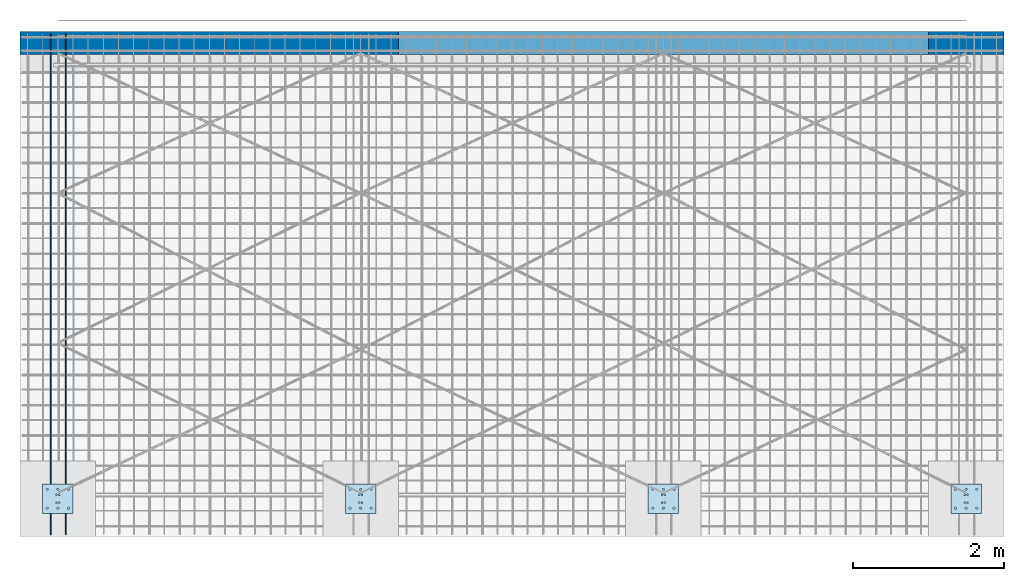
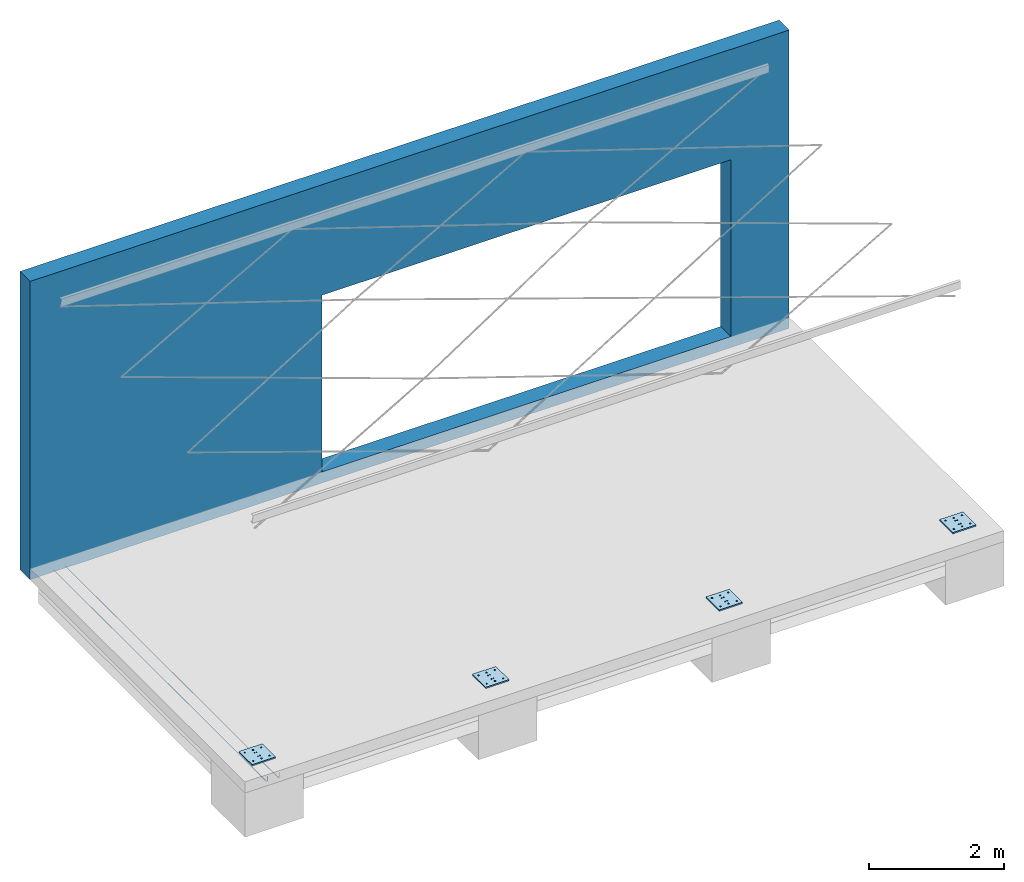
# One storey, part 2 of 8: 4 plates, 1 reinforcing bar, 1 wall, 41 openings.
"""IFC4X3_ADD2 building model written with IfcOpenShell, lengths in millimetres."""

from ifc_helpers import new_model, entity, si_unit, converted_unit, derived_unit, direction, frame, frame_2d, origin, origin_with_axes, origin_2d_with_axis, place, context, subcontext, project, spatial, polyline, rectangle, circle, outline, extrude, material, layer, layer_set, type_object, element, save


model = new_model("IFC4X3_ADD2")

# Units and contexts
model_context = context("Model", 3, precision=0.01, world=origin(), true_north=direction((6.123233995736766e-17, 1.0)))
plan_context = context("Plan", 3, precision=0.01, world=origin(), true_north=direction((6.123233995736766e-17, 1.0)))
body_context = subcontext(model_context, "Body", "Model", "MODEL_VIEW")
ifc_project = project(units=[si_unit("LENGTHUNIT", "METRE", prefix="MILLI"), converted_unit("PLANEANGLEUNIT", "DEGREE", entity("IfcPlaneAngleMeasure", 0.017453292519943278), si_unit("PLANEANGLEUNIT", "RADIAN"), dimensions=[0, 0, 0, 0, 0, 0, 0]), si_unit("AREAUNIT", "SQUARE_METRE"), si_unit("VOLUMEUNIT", "CUBIC_METRE"), derived_unit("THERMALTRANSMITTANCEUNIT", [(si_unit("MASSUNIT", "GRAM", prefix="KILO"), 1), (si_unit("THERMODYNAMICTEMPERATUREUNIT", "KELVIN"), -1), (si_unit("TIMEUNIT", "SECOND"), -3)]), derived_unit("USERDEFINED", [(si_unit("MASSUNIT", "GRAM", prefix="KILO"), 1), (si_unit("THERMODYNAMICTEMPERATUREUNIT", "KELVIN"), -1), (si_unit("TIMEUNIT", "SECOND"), -2)]), derived_unit("THERMALRESISTANCEUNIT", [(si_unit("MASSUNIT", "GRAM", prefix="KILO"), -1), (si_unit("TIMEUNIT", "SECOND"), 3), (si_unit("THERMODYNAMICTEMPERATUREUNIT", "KELVIN"), 1)]), si_unit("MASSUNIT", "GRAM", prefix="KILO"), derived_unit("MOMENTOFINERTIAUNIT", [(si_unit("LENGTHUNIT", "METRE"), 4)]), derived_unit("LINEARFORCEUNIT", [(si_unit("MASSUNIT", "GRAM", prefix="KILO"), 1), (si_unit("TIMEUNIT", "SECOND"), -2)]), derived_unit("WARPINGCONSTANTUNIT", [(si_unit("LENGTHUNIT", "METRE"), 6)]), si_unit("PRESSUREUNIT", "PASCAL"), derived_unit("MASSDENSITYUNIT", [(si_unit("MASSUNIT", "GRAM", prefix="KILO"), 1), (si_unit("LENGTHUNIT", "METRE"), -3)]), derived_unit("MODULUSOFELASTICITYUNIT", [(si_unit("MASSUNIT", "GRAM", prefix="KILO"), 1), (si_unit("TIMEUNIT", "SECOND"), -2), (si_unit("LENGTHUNIT", "METRE"), -1)]), derived_unit("THERMALEXPANSIONCOEFFICIENTUNIT", [(si_unit("THERMODYNAMICTEMPERATUREUNIT", "KELVIN"), -1)]), derived_unit("VAPORPERMEABILITYUNIT", [(si_unit("LENGTHUNIT", "METRE"), -1), (si_unit("TIMEUNIT", "SECOND"), 1)]), derived_unit("USERDEFINED", [(si_unit("MASSUNIT", "GRAM", prefix="KILO"), 1), (si_unit("TIMEUNIT", "SECOND"), -3), (si_unit("LENGTHUNIT", "METRE"), 3), (si_unit("ELECTRICCURRENTUNIT", "AMPERE"), -2)]), derived_unit("SPECIFICHEATCAPACITYUNIT", [(si_unit("THERMODYNAMICTEMPERATUREUNIT", "KELVIN"), -1), (si_unit("TIMEUNIT", "SECOND"), -2), (si_unit("LENGTHUNIT", "METRE"), 2)]), derived_unit("THERMALCONDUCTANCEUNIT", [(si_unit("MASSUNIT", "GRAM", prefix="KILO"), 1), (si_unit("THERMODYNAMICTEMPERATUREUNIT", "KELVIN"), -1), (si_unit("TIMEUNIT", "SECOND"), -3), (si_unit("LENGTHUNIT", "METRE"), 1)])], contexts=[model_context, plan_context])

# Site, building, storey
site_placement = place(None, origin())
site = spatial("IfcSite", under=ifc_project, at=site_placement, Name="Default", CompositionType="ELEMENT")
building_placement = place(site_placement, origin())
building = spatial("IfcBuilding", under=site, at=building_placement, Name="Complex structure", CompositionType="ELEMENT")
storey_placement = place(building_placement, frame((0.0, 0.0, -400.0)))
storey = spatial("IfcBuildingStorey", under=building, at=storey_placement, Name="Level -02", CompositionType="ELEMENT", Elevation=-400.0)

# Plate, openings
ifc_material_1 = material(Name="Metal Stud Layer")
ifc_layer_1 = layer(ifc_material_1, 25.4)
ifc_layer_set_1 = layer_set([ifc_layer_1], Name="Metal Stud Layer")
plate_1_placement = place(storey_placement, frame((-1345.221550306, -1086.866703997, 225.4), z_axis=(0.0, 0.0, -1.0), x_axis=(1.0, 0.0, 0.0)))
plate_1 = element("IfcPlate", 1, at=plate_1_placement, inside=storey, material=ifc_layer_set_1, Name="Baseplate", ObjectType="Baseplate", context=model_context, shape_type="SweptSolid", body=[
    extrude(outline(polyline([(0.0, 0.0), (400.0, 0.0), (400.0, 392.0), (0.0, 392.0), (0.0, 0.0)])), origin_with_axes(), (0.0, 0.0, 1.0), 25.4),
])
opening_1_placement = place(plate_1_placement, frame((218.0, 248.0, 25.9), z_axis=(0.0, 0.0, -1.0), x_axis=(0.0, 1.0, 0.0)))
element("IfcOpeningElement", 2, at=opening_1_placement, cuts=plate_1, ObjectType="Opening", context=model_context, shape_type="SweptSolid", body=[
    extrude(circle(Radius=9.526, at=origin_2d_with_axis()), origin(), (0.0, 0.0, 1.0), 26.4),
])
opening_2_placement = place(plate_1_placement, frame((218.0, 144.0, 25.9), z_axis=(0.0, 0.0, -1.0), x_axis=(0.0, 1.0, 0.0)))
element("IfcOpeningElement", 3, at=opening_2_placement, cuts=plate_1, ObjectType="Opening", context=model_context, shape_type="SweptSolid", body=[
    extrude(circle(Radius=9.526, at=origin_2d_with_axis()), origin(), (0.0, 0.0, 1.0), 26.4),
])
opening_3_placement = place(plate_1_placement, frame((182.0, 144.0, 25.9), z_axis=(0.0, 0.0, -1.0), x_axis=(0.0, 1.0, 0.0)))
element("IfcOpeningElement", 4, at=opening_3_placement, cuts=plate_1, ObjectType="Opening", context=model_context, shape_type="SweptSolid", body=[
    extrude(circle(Radius=9.526, at=origin_2d_with_axis()), origin(), (0.0, 0.0, 1.0), 26.4),
])
opening_4_placement = place(plate_1_placement, frame((182.0, 248.0, 25.9), z_axis=(0.0, 0.0, -1.0), x_axis=(0.0, 1.0, 0.0)))
element("IfcOpeningElement", 5, at=opening_4_placement, cuts=plate_1, ObjectType="Opening", context=model_context, shape_type="SweptSolid", body=[
    extrude(circle(Radius=9.526, at=origin_2d_with_axis()), origin(), (0.0, 0.0, 1.0), 26.4),
])
opening_5_placement = place(plate_1_placement, frame((200.0, 196.0, 25.9), z_axis=(0.0, 0.0, -1.0), x_axis=(1.0, 0.0, 0.0)))
element("IfcOpeningElement", 6, at=opening_5_placement, cuts=plate_1, ObjectType="Opening", context=model_context, shape_type="SweptSolid", body=[
    extrude(circle(Radius=13.49475, at=frame_2d((0.0, 125.0), x_axis=(1.0, 0.0))), origin(), (0.0, 0.0, 1.0), 26.4),
])
opening_6_placement = place(plate_1_placement, frame((200.0, 196.0, 25.9), z_axis=(0.0, 0.0, -1.0), x_axis=(1.0, 0.0, 0.0)))
element("IfcOpeningElement", 7, at=opening_6_placement, cuts=plate_1, ObjectType="Opening", context=model_context, shape_type="SweptSolid", body=[
    extrude(circle(Radius=13.49475, at=frame_2d((140.0, 125.0), x_axis=(1.0, 0.0))), origin(), (0.0, 0.0, 1.0), 26.4),
])
opening_7_placement = place(plate_1_placement, frame((200.0, 196.0, 25.9), z_axis=(0.0, 0.0, -1.0), x_axis=(1.0, 0.0, 0.0)))
element("IfcOpeningElement", 8, at=opening_7_placement, cuts=plate_1, ObjectType="Opening", context=model_context, shape_type="SweptSolid", body=[
    extrude(circle(Radius=13.49475, at=frame_2d((-140.0, 125.0), x_axis=(1.0, 0.0))), origin(), (0.0, 0.0, 1.0), 26.4),
])
opening_8_placement = place(plate_1_placement, frame((200.0, 196.0, 25.9), z_axis=(0.0, 0.0, -1.0), x_axis=(1.0, 0.0, 0.0)))
element("IfcOpeningElement", 9, at=opening_8_placement, cuts=plate_1, ObjectType="Opening", context=model_context, shape_type="SweptSolid", body=[
    extrude(circle(Radius=13.49475, at=frame_2d((0.0, -125.0), x_axis=(1.0, 0.0))), origin(), (0.0, 0.0, 1.0), 26.4),
])
opening_9_placement = place(plate_1_placement, frame((200.0, 196.0, 25.9), z_axis=(0.0, 0.0, -1.0), x_axis=(1.0, 0.0, 0.0)))
element("IfcOpeningElement", 10, at=opening_9_placement, cuts=plate_1, ObjectType="Opening", context=model_context, shape_type="SweptSolid", body=[
    extrude(circle(Radius=13.49475, at=frame_2d((140.0, -125.0), x_axis=(1.0, 0.0))), origin(), (0.0, 0.0, 1.0), 26.4),
])
opening_10_placement = place(plate_1_placement, frame((200.0, 196.0, 25.9), z_axis=(0.0, 0.0, -1.0), x_axis=(1.0, 0.0, 0.0)))
element("IfcOpeningElement", 11, at=opening_10_placement, cuts=plate_1, ObjectType="Opening", context=model_context, shape_type="SweptSolid", body=[
    extrude(circle(Radius=13.49475, at=frame_2d((-140.0, -125.0), x_axis=(1.0, 0.0))), origin(), (0.0, 0.0, 1.0), 26.4),
])

plate_2_placement = place(storey_placement, frame((-5345.221550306, -1086.866703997, 225.4), z_axis=(0.0, 0.0, -1.0), x_axis=(1.0, 0.0, 0.0)))
plate_2 = element("IfcPlate", 12, at=plate_2_placement, inside=storey, material=ifc_layer_set_1, Name="Baseplate", ObjectType="Baseplate", context=model_context, shape_type="SweptSolid", body=[
    extrude(outline(polyline([(0.0, 0.0), (400.0, 0.0), (400.0, 392.0), (0.0, 392.0), (0.0, 0.0)])), origin_with_axes(), (0.0, 0.0, 1.0), 25.4),
])
opening_11_placement = place(plate_2_placement, frame((218.0, 248.0, 25.9), z_axis=(0.0, 0.0, -1.0), x_axis=(0.0, 1.0, 0.0)))
element("IfcOpeningElement", 13, at=opening_11_placement, cuts=plate_2, ObjectType="Opening", context=model_context, shape_type="SweptSolid", body=[
    extrude(circle(Radius=9.526, at=origin_2d_with_axis()), origin(), (0.0, 0.0, 1.0), 26.4),
])
opening_12_placement = place(plate_2_placement, frame((218.0, 144.0, 25.9), z_axis=(0.0, 0.0, -1.0), x_axis=(0.0, 1.0, 0.0)))
element("IfcOpeningElement", 14, at=opening_12_placement, cuts=plate_2, ObjectType="Opening", context=model_context, shape_type="SweptSolid", body=[
    extrude(circle(Radius=9.526, at=origin_2d_with_axis()), origin(), (0.0, 0.0, 1.0), 26.4),
])
opening_13_placement = place(plate_2_placement, frame((182.0, 144.0, 25.9), z_axis=(0.0, 0.0, -1.0), x_axis=(0.0, 1.0, 0.0)))
element("IfcOpeningElement", 15, at=opening_13_placement, cuts=plate_2, ObjectType="Opening", context=model_context, shape_type="SweptSolid", body=[
    extrude(circle(Radius=9.526, at=origin_2d_with_axis()), origin(), (0.0, 0.0, 1.0), 26.4),
])
opening_14_placement = place(plate_2_placement, frame((182.0, 248.0, 25.9), z_axis=(0.0, 0.0, -1.0), x_axis=(0.0, 1.0, 0.0)))
element("IfcOpeningElement", 16, at=opening_14_placement, cuts=plate_2, ObjectType="Opening", context=model_context, shape_type="SweptSolid", body=[
    extrude(circle(Radius=9.526, at=origin_2d_with_axis()), origin(), (0.0, 0.0, 1.0), 26.4),
])
opening_15_placement = place(plate_2_placement, frame((200.0, 196.0, 25.9), z_axis=(0.0, 0.0, -1.0), x_axis=(1.0, 0.0, 0.0)))
element("IfcOpeningElement", 17, at=opening_15_placement, cuts=plate_2, ObjectType="Opening", context=model_context, shape_type="SweptSolid", body=[
    extrude(circle(Radius=13.49475, at=frame_2d((0.0, 125.0), x_axis=(1.0, 0.0))), origin(), (0.0, 0.0, 1.0), 26.4),
])
opening_16_placement = place(plate_2_placement, frame((200.0, 196.0, 25.9), z_axis=(0.0, 0.0, -1.0), x_axis=(1.0, 0.0, 0.0)))
element("IfcOpeningElement", 18, at=opening_16_placement, cuts=plate_2, ObjectType="Opening", context=model_context, shape_type="SweptSolid", body=[
    extrude(circle(Radius=13.49475, at=frame_2d((140.0, 125.0), x_axis=(1.0, 0.0))), origin(), (0.0, 0.0, 1.0), 26.4),
])
opening_17_placement = place(plate_2_placement, frame((200.0, 196.0, 25.9), z_axis=(0.0, 0.0, -1.0), x_axis=(1.0, 0.0, 0.0)))
element("IfcOpeningElement", 19, at=opening_17_placement, cuts=plate_2, ObjectType="Opening", context=model_context, shape_type="SweptSolid", body=[
    extrude(circle(Radius=13.49475, at=frame_2d((-140.0, 125.0), x_axis=(1.0, 0.0))), origin(), (0.0, 0.0, 1.0), 26.4),
])
opening_18_placement = place(plate_2_placement, frame((200.0, 196.0, 25.9), z_axis=(0.0, 0.0, -1.0), x_axis=(1.0, 0.0, 0.0)))
element("IfcOpeningElement", 20, at=opening_18_placement, cuts=plate_2, ObjectType="Opening", context=model_context, shape_type="SweptSolid", body=[
    extrude(circle(Radius=13.49475, at=frame_2d((0.0, -125.0), x_axis=(1.0, 0.0))), origin(), (0.0, 0.0, 1.0), 26.4),
])
opening_19_placement = place(plate_2_placement, frame((200.0, 196.0, 25.9), z_axis=(0.0, 0.0, -1.0), x_axis=(1.0, 0.0, 0.0)))
element("IfcOpeningElement", 21, at=opening_19_placement, cuts=plate_2, ObjectType="Opening", context=model_context, shape_type="SweptSolid", body=[
    extrude(circle(Radius=13.49475, at=frame_2d((140.0, -125.0), x_axis=(1.0, 0.0))), origin(), (0.0, 0.0, 1.0), 26.4),
])
opening_20_placement = place(plate_2_placement, frame((200.0, 196.0, 25.9), z_axis=(0.0, 0.0, -1.0), x_axis=(1.0, 0.0, 0.0)))
element("IfcOpeningElement", 22, at=opening_20_placement, cuts=plate_2, ObjectType="Opening", context=model_context, shape_type="SweptSolid", body=[
    extrude(circle(Radius=13.49475, at=frame_2d((-140.0, -125.0), x_axis=(1.0, 0.0))), origin(), (0.0, 0.0, 1.0), 26.4),
])

plate_3_placement = place(storey_placement, frame((-9345.221550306, -1086.866703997, 225.4), z_axis=(0.0, 0.0, -1.0), x_axis=(1.0, 0.0, 0.0)))
plate_3 = element("IfcPlate", 23, at=plate_3_placement, inside=storey, material=ifc_layer_set_1, Name="Baseplate", ObjectType="Baseplate", context=model_context, shape_type="SweptSolid", body=[
    extrude(outline(polyline([(0.0, 0.0), (400.0, 0.0), (400.0, 392.0), (0.0, 392.0), (0.0, 0.0)])), origin_with_axes(), (0.0, 0.0, 1.0), 25.4),
])
opening_21_placement = place(plate_3_placement, frame((218.0, 248.0, 25.9), z_axis=(0.0, 0.0, -1.0), x_axis=(0.0, 1.0, 0.0)))
element("IfcOpeningElement", 24, at=opening_21_placement, cuts=plate_3, ObjectType="Opening", context=model_context, shape_type="SweptSolid", body=[
    extrude(circle(Radius=9.526, at=origin_2d_with_axis()), origin(), (0.0, 0.0, 1.0), 26.4),
])
opening_22_placement = place(plate_3_placement, frame((218.0, 144.0, 25.9), z_axis=(0.0, 0.0, -1.0), x_axis=(0.0, 1.0, 0.0)))
element("IfcOpeningElement", 25, at=opening_22_placement, cuts=plate_3, ObjectType="Opening", context=model_context, shape_type="SweptSolid", body=[
    extrude(circle(Radius=9.526, at=origin_2d_with_axis()), origin(), (0.0, 0.0, 1.0), 26.4),
])
opening_23_placement = place(plate_3_placement, frame((182.0, 144.0, 25.9), z_axis=(0.0, 0.0, -1.0), x_axis=(0.0, 1.0, 0.0)))
element("IfcOpeningElement", 26, at=opening_23_placement, cuts=plate_3, ObjectType="Opening", context=model_context, shape_type="SweptSolid", body=[
    extrude(circle(Radius=9.526, at=origin_2d_with_axis()), origin(), (0.0, 0.0, 1.0), 26.4),
])
opening_24_placement = place(plate_3_placement, frame((182.0, 248.0, 25.9), z_axis=(0.0, 0.0, -1.0), x_axis=(0.0, 1.0, 0.0)))
element("IfcOpeningElement", 27, at=opening_24_placement, cuts=plate_3, ObjectType="Opening", context=model_context, shape_type="SweptSolid", body=[
    extrude(circle(Radius=9.526, at=origin_2d_with_axis()), origin(), (0.0, 0.0, 1.0), 26.4),
])
opening_25_placement = place(plate_3_placement, frame((200.0, 196.0, 25.9), z_axis=(0.0, 0.0, -1.0), x_axis=(1.0, 0.0, 0.0)))
element("IfcOpeningElement", 28, at=opening_25_placement, cuts=plate_3, ObjectType="Opening", context=model_context, shape_type="SweptSolid", body=[
    extrude(circle(Radius=13.49475, at=frame_2d((0.0, 125.0), x_axis=(1.0, 0.0))), origin(), (0.0, 0.0, 1.0), 26.4),
])
opening_26_placement = place(plate_3_placement, frame((200.0, 196.0, 25.9), z_axis=(0.0, 0.0, -1.0), x_axis=(1.0, 0.0, 0.0)))
element("IfcOpeningElement", 29, at=opening_26_placement, cuts=plate_3, ObjectType="Opening", context=model_context, shape_type="SweptSolid", body=[
    extrude(circle(Radius=13.49475, at=frame_2d((140.0, 125.0), x_axis=(1.0, 0.0))), origin(), (0.0, 0.0, 1.0), 26.4),
])
opening_27_placement = place(plate_3_placement, frame((200.0, 196.0, 25.9), z_axis=(0.0, 0.0, -1.0), x_axis=(1.0, 0.0, 0.0)))
element("IfcOpeningElement", 30, at=opening_27_placement, cuts=plate_3, ObjectType="Opening", context=model_context, shape_type="SweptSolid", body=[
    extrude(circle(Radius=13.49475, at=frame_2d((-140.0, 125.0), x_axis=(1.0, 0.0))), origin(), (0.0, 0.0, 1.0), 26.4),
])
opening_28_placement = place(plate_3_placement, frame((200.0, 196.0, 25.9), z_axis=(0.0, 0.0, -1.0), x_axis=(1.0, 0.0, 0.0)))
element("IfcOpeningElement", 31, at=opening_28_placement, cuts=plate_3, ObjectType="Opening", context=model_context, shape_type="SweptSolid", body=[
    extrude(circle(Radius=13.49475, at=frame_2d((0.0, -125.0), x_axis=(1.0, 0.0))), origin(), (0.0, 0.0, 1.0), 26.4),
])
opening_29_placement = place(plate_3_placement, frame((200.0, 196.0, 25.9), z_axis=(0.0, 0.0, -1.0), x_axis=(1.0, 0.0, 0.0)))
element("IfcOpeningElement", 32, at=opening_29_placement, cuts=plate_3, ObjectType="Opening", context=model_context, shape_type="SweptSolid", body=[
    extrude(circle(Radius=13.49475, at=frame_2d((140.0, -125.0), x_axis=(1.0, 0.0))), origin(), (0.0, 0.0, 1.0), 26.4),
])
opening_30_placement = place(plate_3_placement, frame((200.0, 196.0, 25.9), z_axis=(0.0, 0.0, -1.0), x_axis=(1.0, 0.0, 0.0)))
element("IfcOpeningElement", 33, at=opening_30_placement, cuts=plate_3, ObjectType="Opening", context=model_context, shape_type="SweptSolid", body=[
    extrude(circle(Radius=13.49475, at=frame_2d((-140.0, -125.0), x_axis=(1.0, 0.0))), origin(), (0.0, 0.0, 1.0), 26.4),
])

plate_4_placement = place(storey_placement, frame((-13345.221550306, -1086.866703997, 225.4), z_axis=(0.0, 0.0, -1.0), x_axis=(1.0, 0.0, 0.0)))
plate_4 = element("IfcPlate", 34, at=plate_4_placement, inside=storey, material=ifc_layer_set_1, Name="Baseplate", ObjectType="Baseplate", context=model_context, shape_type="SweptSolid", body=[
    extrude(outline(polyline([(0.0, 0.0), (400.0, 0.0), (400.0, 392.0), (0.0, 392.0), (0.0, 0.0)])), origin_with_axes(), (0.0, 0.0, 1.0), 25.4),
])
opening_31_placement = place(plate_4_placement, frame((218.0, 248.0, 25.9), z_axis=(0.0, 0.0, -1.0), x_axis=(0.0, 1.0, 0.0)))
element("IfcOpeningElement", 35, at=opening_31_placement, cuts=plate_4, ObjectType="Opening", context=model_context, shape_type="SweptSolid", body=[
    extrude(circle(Radius=9.526, at=origin_2d_with_axis()), origin(), (0.0, 0.0, 1.0), 26.4),
])
opening_32_placement = place(plate_4_placement, frame((218.0, 144.0, 25.9), z_axis=(0.0, 0.0, -1.0), x_axis=(0.0, 1.0, 0.0)))
element("IfcOpeningElement", 36, at=opening_32_placement, cuts=plate_4, ObjectType="Opening", context=model_context, shape_type="SweptSolid", body=[
    extrude(circle(Radius=9.526, at=origin_2d_with_axis()), origin(), (0.0, 0.0, 1.0), 26.4),
])
opening_33_placement = place(plate_4_placement, frame((182.0, 144.0, 25.9), z_axis=(0.0, 0.0, -1.0), x_axis=(0.0, 1.0, 0.0)))
element("IfcOpeningElement", 37, at=opening_33_placement, cuts=plate_4, ObjectType="Opening", context=model_context, shape_type="SweptSolid", body=[
    extrude(circle(Radius=9.526, at=origin_2d_with_axis()), origin(), (0.0, 0.0, 1.0), 26.4),
])
opening_34_placement = place(plate_4_placement, frame((182.0, 248.0, 25.9), z_axis=(0.0, 0.0, -1.0), x_axis=(0.0, 1.0, 0.0)))
element("IfcOpeningElement", 38, at=opening_34_placement, cuts=plate_4, ObjectType="Opening", context=model_context, shape_type="SweptSolid", body=[
    extrude(circle(Radius=9.526, at=origin_2d_with_axis()), origin(), (0.0, 0.0, 1.0), 26.4),
])
opening_35_placement = place(plate_4_placement, frame((200.0, 196.0, 25.9), z_axis=(0.0, 0.0, -1.0), x_axis=(1.0, 0.0, 0.0)))
element("IfcOpeningElement", 39, at=opening_35_placement, cuts=plate_4, ObjectType="Opening", context=model_context, shape_type="SweptSolid", body=[
    extrude(circle(Radius=13.49475, at=frame_2d((0.0, 125.0), x_axis=(1.0, 0.0))), origin(), (0.0, 0.0, 1.0), 26.4),
])
opening_36_placement = place(plate_4_placement, frame((200.0, 196.0, 25.9), z_axis=(0.0, 0.0, -1.0), x_axis=(1.0, 0.0, 0.0)))
element("IfcOpeningElement", 40, at=opening_36_placement, cuts=plate_4, ObjectType="Opening", context=model_context, shape_type="SweptSolid", body=[
    extrude(circle(Radius=13.49475, at=frame_2d((140.0, 125.0), x_axis=(1.0, 0.0))), origin(), (0.0, 0.0, 1.0), 26.4),
])
opening_37_placement = place(plate_4_placement, frame((200.0, 196.0, 25.9), z_axis=(0.0, 0.0, -1.0), x_axis=(1.0, 0.0, 0.0)))
element("IfcOpeningElement", 41, at=opening_37_placement, cuts=plate_4, ObjectType="Opening", context=model_context, shape_type="SweptSolid", body=[
    extrude(circle(Radius=13.49475, at=frame_2d((-140.0, 125.0), x_axis=(1.0, 0.0))), origin(), (0.0, 0.0, 1.0), 26.4),
])
opening_38_placement = place(plate_4_placement, frame((200.0, 196.0, 25.9), z_axis=(0.0, 0.0, -1.0), x_axis=(1.0, 0.0, 0.0)))
element("IfcOpeningElement", 42, at=opening_38_placement, cuts=plate_4, ObjectType="Opening", context=model_context, shape_type="SweptSolid", body=[
    extrude(circle(Radius=13.49475, at=frame_2d((0.0, -125.0), x_axis=(1.0, 0.0))), origin(), (0.0, 0.0, 1.0), 26.4),
])
opening_39_placement = place(plate_4_placement, frame((200.0, 196.0, 25.9), z_axis=(0.0, 0.0, -1.0), x_axis=(1.0, 0.0, 0.0)))
element("IfcOpeningElement", 43, at=opening_39_placement, cuts=plate_4, ObjectType="Opening", context=model_context, shape_type="SweptSolid", body=[
    extrude(circle(Radius=13.49475, at=frame_2d((140.0, -125.0), x_axis=(1.0, 0.0))), origin(), (0.0, 0.0, 1.0), 26.4),
])
opening_40_placement = place(plate_4_placement, frame((200.0, 196.0, 25.9), z_axis=(0.0, 0.0, -1.0), x_axis=(1.0, 0.0, 0.0)))
element("IfcOpeningElement", 44, at=opening_40_placement, cuts=plate_4, ObjectType="Opening", context=model_context, shape_type="SweptSolid", body=[
    extrude(circle(Radius=13.49475, at=frame_2d((-140.0, -125.0), x_axis=(1.0, 0.0))), origin(), (0.0, 0.0, 1.0), 26.4),
])

# Wall, opening
ifc_material_2 = material(Name="Concrete - Cast-in-Place Concrete", Category="Concrete")
ifc_layer_2 = layer(ifc_material_2, 300.0, Name="Concrete - Cast-in-Place Concrete", Category="Concrete")
ifc_layer_set_2 = layer_set([ifc_layer_2], Name="Basic Wall:Generic - 300mm")
wall_type = type_object("IfcWallType", Name="Basic Wall:Generic - 300mm", PredefinedType="STANDARD", material=ifc_layer_set_2)
wall_placement = place(storey_placement, frame((-13645.22155030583, 4737.1332960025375, 0.0)))
wall = element("IfcWall", 45, at=wall_placement, inside=storey, type_object=wall_type, material=ifc_layer_set_2, Name="Basic Wall:Generic - 300mm", ObjectType="Basic Wall:Generic - 300mm", PredefinedType="NOTDEFINED", context=body_context, shape_type="SweptSolid", body=[
    extrude(rectangle(XDim=13000.000000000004, YDim=300.0, at=frame_2d((6500.000000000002, 0.0), x_axis=(-1.0, 0.0))), origin(), (0.0, 0.0, 1.0), 5400.000000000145),
])
opening_41_placement = place(wall_placement, origin())
element("IfcOpeningElement", 46, at=opening_41_placement, cuts=wall, Name="Basic Wall:Generic - 300mm:6291", PredefinedType="OPENING", context=body_context, shape_type="SweptSolid", body=[
    extrude(rectangle(XDim=3200.0, YDim=7000.0000000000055, at=frame_2d((-2.2737367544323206e-13, 0.0), x_axis=(0.0, 1.0))), frame((8500.0, 150.0, 1800.0), z_axis=(0.0, -1.0, 0.0), x_axis=(-1.0, 0.0, 0.0)), (0.0, 0.0, 1.0), 299.99999999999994),
])

# Reinforcing bar
ifc_material_3 = material(Name="Steel Rebar - B500A, B or C", Category="Unassigned")
reinforcing_bar_type = type_object("IfcReinforcingBarType", Name="Rebar Bar:12mm", PredefinedType="NOTDEFINED")
reinforcing_bar_placement = place(storey_placement, origin())
ifc_direction_1 = entity("IfcDirection", [1.0, 0.0, 0.0])
ifc_direction_2 = entity("IfcDirection", [1.0, 0.0, 0.0])
element("IfcReinforcingBar", 47, at=reinforcing_bar_placement, inside=storey, type_object=reinforcing_bar_type, material=ifc_material_3, Name="Rebar Bar:12mm : Shape 21", ObjectType="Rebar Bar:12mm", context=body_context, shape_type="AdvancedSweptSolid", body=[
    entity("IfcSweptDiskSolid", entity("IfcCompositeCurve", [entity("IfcCompositeCurveSegment", "CONTINUOUS", True, entity("IfcPolyline", [entity("IfcCartesianPoint", [-13239.221550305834, -1751.8667039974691, 145.0]), entity("IfcCartesianPoint", [-13239.221550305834, -1751.8667039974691, 77.0])])), entity("IfcCompositeCurveSegment", "CONTINUOUS", True, entity("IfcTrimmedCurve", entity("IfcCircle", entity("IfcAxis2Placement3D", entity("IfcCartesianPoint", [-13239.221550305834, -1705.8667039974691, 77.0]), ifc_direction_1, entity("IfcDirection", [0.0, 0.0, -1.0])), 46.0), [entity("IfcParameterValue", 269.9999999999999)], [entity("IfcParameterValue", 360.00000000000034)], True, "PARAMETER")), entity("IfcCompositeCurveSegment", "CONTINUOUS", True, entity("IfcPolyline", [entity("IfcCartesianPoint", [-13239.221550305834, -1705.8667039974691, 31.0]), entity("IfcCartesianPoint", [-13239.221550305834, 4811.133296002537, 31.0])])), entity("IfcCompositeCurveSegment", "CONTINUOUS", True, entity("IfcTrimmedCurve", entity("IfcCircle", entity("IfcAxis2Placement3D", entity("IfcCartesianPoint", [-13239.221550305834, 4811.133296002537, 77.0]), ifc_direction_1, entity("IfcDirection", [0.0, 1.0, 0.0])), 46.0), [entity("IfcParameterValue", 269.9999999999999)], [entity("IfcParameterValue", 360.00000000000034)], True, "PARAMETER")), entity("IfcCompositeCurveSegment", "CONTINUOUS", True, entity("IfcPolyline", [entity("IfcCartesianPoint", [-13239.221550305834, 4857.133296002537, 77.0]), entity("IfcCartesianPoint", [-13239.221550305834, 4857.133296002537, 145.0])]))], False), 6.0, None, 0.0, 183.00000000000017),
    entity("IfcSweptDiskSolid", entity("IfcCompositeCurve", [entity("IfcCompositeCurveSegment", "CONTINUOUS", True, entity("IfcPolyline", [entity("IfcCartesianPoint", [-13039.221550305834, -1751.8667039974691, 145.0]), entity("IfcCartesianPoint", [-13039.221550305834, -1751.8667039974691, 77.0])])), entity("IfcCompositeCurveSegment", "CONTINUOUS", True, entity("IfcTrimmedCurve", entity("IfcCircle", entity("IfcAxis2Placement3D", entity("IfcCartesianPoint", [-13039.221550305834, -1705.8667039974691, 77.0]), ifc_direction_2, entity("IfcDirection", [0.0, 0.0, -1.0])), 46.0), [entity("IfcParameterValue", 269.9999999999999)], [entity("IfcParameterValue", 360.00000000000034)], True, "PARAMETER")), entity("IfcCompositeCurveSegment", "CONTINUOUS", True, entity("IfcPolyline", [entity("IfcCartesianPoint", [-13039.221550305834, -1705.8667039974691, 31.0]), entity("IfcCartesianPoint", [-13039.221550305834, 4811.133296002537, 31.0])])), entity("IfcCompositeCurveSegment", "CONTINUOUS", True, entity("IfcTrimmedCurve", entity("IfcCircle", entity("IfcAxis2Placement3D", entity("IfcCartesianPoint", [-13039.221550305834, 4811.133296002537, 77.0]), ifc_direction_2, entity("IfcDirection", [0.0, 1.0, 0.0])), 46.0), [entity("IfcParameterValue", 269.9999999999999)], [entity("IfcParameterValue", 360.00000000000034)], True, "PARAMETER")), entity("IfcCompositeCurveSegment", "CONTINUOUS", True, entity("IfcPolyline", [entity("IfcCartesianPoint", [-13039.221550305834, 4857.133296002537, 77.0]), entity("IfcCartesianPoint", [-13039.221550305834, 4857.133296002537, 145.0])]))], False), 6.0, None, 0.0, 183.00000000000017),
])

save(model, "model.ifc")
